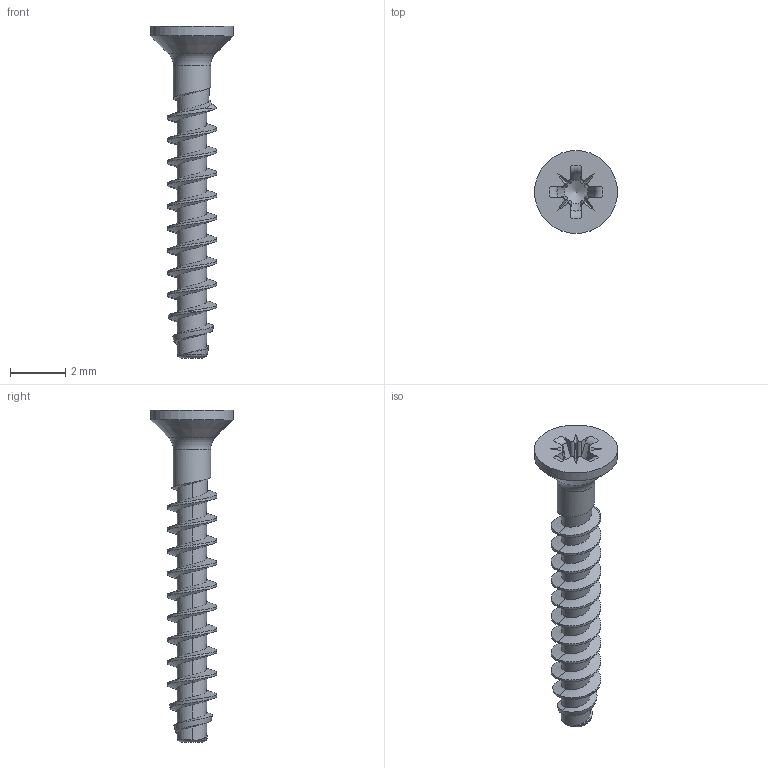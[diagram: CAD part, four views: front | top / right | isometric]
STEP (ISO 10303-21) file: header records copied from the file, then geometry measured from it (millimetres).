
FILE_DESCRIPTION(/* description */ (''),/* implementation_level */ '2;1');
FILE_NAME(/* name */ 'KN1033-STS-18x12-Z0.step',/* time_stamp */ '2017-10-20T12:06:01+02:00',/* author */ (''),/* organization */ (''),/* preprocessor_version */ 'ST-DEVELOPER v16',/* originating_system */ 'SIEMENS PLM Software NX 10.0',/* authorisation */ '');
FILE_SCHEMA (('AUTOMOTIVE_DESIGN { 1 0 10303 214 3 1 1 1 }'));
Length unit declared in the file: millimetre
Products named in the file (1): KN1033-STS-18x12-Z0
Bounding box: 3 x 3 x 12 mm (x, y, z)
Volume: 18.5 mm3; surface area: 90.3 mm2
Topology: 1 solids, 1 shells, 90 faces, 234 edges, 146 vertices
Faces by surface type: bspline 38, plane 26, cylinder 12, cone 8, torus 6
Full cylindrical faces by diameter (mm): 1.36 x1, 3 x1
Entity records: 5207 total; most frequent: CARTESIAN_POINT 3351, ORIENTED_EDGE 442, DIRECTION 261, EDGE_CURVE 221, VERTEX_POINT 141, B_SPLINE_CURVE_WITH_KNOTS 101, EDGE_LOOP 95, ADVANCED_FACE 89
